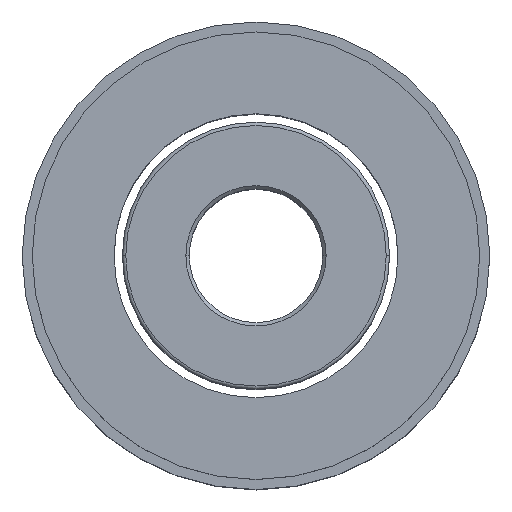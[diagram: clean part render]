
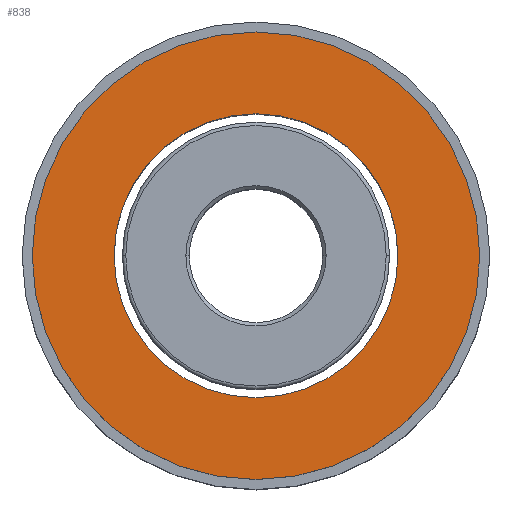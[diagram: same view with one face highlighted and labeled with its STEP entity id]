
A CAD part, top view. The second image highlights one B-rep face of the part: STEP entity #838.
In plain terms, the highlighted planar face has unit normal (0, 0, 1).
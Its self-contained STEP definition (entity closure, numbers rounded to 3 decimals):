
#2 = ORIENTED_EDGE ( 'NONE', *, *, #607, .T. ) ;
#7 = ORIENTED_EDGE ( 'NONE', *, *, #628, .T. ) ;
#53 = AXIS2_PLACEMENT_3D ( 'NONE', #210, #988, #447 ) ;
#58 = ORIENTED_EDGE ( 'NONE', *, *, #289, .F. ) ;
#88 = CARTESIAN_POINT ( 'NONE',  ( 0., 0., 0. ) ) ;
#95 = EDGE_LOOP ( 'NONE', ( #7, #2 ) ) ;
#149 = CIRCLE ( 'NONE', #53, 6.7 ) ;
#166 = DIRECTION ( 'NONE',  ( -1., 0., 0. ) ) ;
#174 = DIRECTION ( 'NONE',  ( 1., 0., 0. ) ) ;
#180 = CARTESIAN_POINT ( 'NONE',  ( 6.7, 0., 0. ) ) ;
#189 = VERTEX_POINT ( 'NONE', #795 ) ;
#205 = CIRCLE ( 'NONE', #586, 4.25 ) ;
#210 = CARTESIAN_POINT ( 'NONE',  ( 0., 0., 0. ) ) ;
#222 = CIRCLE ( 'NONE', #830, 4.25 ) ;
#262 = DIRECTION ( 'NONE',  ( 0., 0., -1. ) ) ;
#289 = EDGE_CURVE ( 'NONE', #813, #571, #149, .T. ) ;
#341 = DIRECTION ( 'NONE',  ( -1., 0., 0. ) ) ;
#357 = AXIS2_PLACEMENT_3D ( 'NONE', #541, #362, #919 ) ;
#362 = DIRECTION ( 'NONE',  ( 0., 0., -1. ) ) ;
#440 = AXIS2_PLACEMENT_3D ( 'NONE', #638, #874, #174 ) ;
#447 = DIRECTION ( 'NONE',  ( -1., 0., 0. ) ) ;
#475 = PLANE ( 'NONE',  #440 ) ;
#483 = FACE_BOUND ( 'NONE', #95, .T. ) ;
#504 = VERTEX_POINT ( 'NONE', #928 ) ;
#529 = ORIENTED_EDGE ( 'NONE', *, *, #788, .F. ) ;
#541 = CARTESIAN_POINT ( 'NONE',  ( 0., 0., 0. ) ) ;
#571 = VERTEX_POINT ( 'NONE', #180 ) ;
#576 = DIRECTION ( 'NONE',  ( 0., 0., -1. ) ) ;
#586 = AXIS2_PLACEMENT_3D ( 'NONE', #738, #262, #166 ) ;
#607 = EDGE_CURVE ( 'NONE', #189, #504, #205, .T. ) ;
#622 = CARTESIAN_POINT ( 'NONE',  ( -6.7, 0., 0. ) ) ;
#628 = EDGE_CURVE ( 'NONE', #504, #189, #222, .T. ) ;
#635 = CIRCLE ( 'NONE', #357, 6.7 ) ;
#638 = CARTESIAN_POINT ( 'NONE',  ( 0., 6.7, 0. ) ) ;
#738 = CARTESIAN_POINT ( 'NONE',  ( 0., 0., 0. ) ) ;
#788 = EDGE_CURVE ( 'NONE', #571, #813, #635, .T. ) ;
#795 = CARTESIAN_POINT ( 'NONE',  ( 4.25, 0., 0. ) ) ;
#813 = VERTEX_POINT ( 'NONE', #622 ) ;
#830 = AXIS2_PLACEMENT_3D ( 'NONE', #88, #576, #341 ) ;
#838 = ADVANCED_FACE ( 'NONE', ( #483, #881 ), #475, .T. ) ;
#874 = DIRECTION ( 'NONE',  ( 0., 0., 1. ) ) ;
#880 = EDGE_LOOP ( 'NONE', ( #58, #529 ) ) ;
#881 = FACE_OUTER_BOUND ( 'NONE', #880, .T. ) ;
#919 = DIRECTION ( 'NONE',  ( -1., 0., 0. ) ) ;
#928 = CARTESIAN_POINT ( 'NONE',  ( -4.25, 0., 0. ) ) ;
#988 = DIRECTION ( 'NONE',  ( 0., 0., -1. ) ) ;
